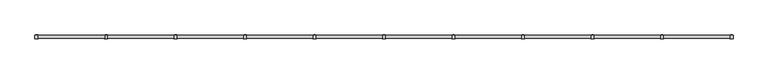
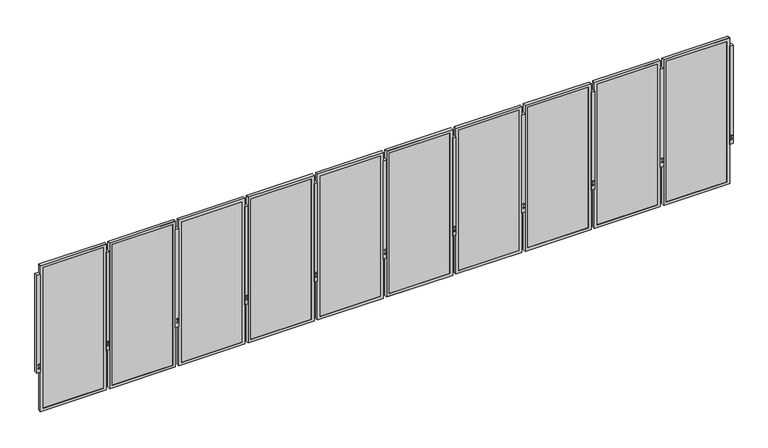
"""IFC4 building model written with IfcOpenShell, lengths in millimetres: railing geometry, Railing - Amico Architectural - Expanded Mesh Railing - Sunshade."""

from ifc_helpers import new_model, si_unit, frame, origin, place, context, project, spatial, polyline, outline, extrude, faceted_brep, source, transform, mapped, element, save


def railing_e50479f8(model_context):
    return source(origin(), model_context, "Body", "SolidModel", [
        extrude(outline(polyline([(-3118.5883502, -31340.2549816), (-3067.7883502, -31340.2549816), (-3067.7883502, -31391.0549816), (-3118.5883502, -31391.0549816), (-3118.5883502, -31340.2549816)])), frame((0.0, 0.0, -609.6), z_axis=(0.0, 0.0, 1.0), x_axis=(1.0, 0.0, 0.0)), (0.0, 0.0, 1.0), 1524.0),
        extrude(outline(polyline([(-530.1129981, -3103.6089204), (-542.3802561, -3100.3219185), (-545.667258, -3088.0546605), (-536.6870019, -3079.0744044), (-524.4197439, -3082.3614062), (-521.132742, -3094.6286642), (-530.1129981, -3103.6089204)])), frame((0.0, -31392.9016694, 0.0), z_axis=(0.0, 1.0, 0.0), x_axis=(0.0, 0.0, 1.0)), (0.0, 0.0, 1.0), 54.4933756),
        extrude(outline(polyline([(-479.3129981, -3103.6089204), (-491.5802561, -3100.3219185), (-494.867258, -3088.0546605), (-485.8870019, -3079.0744044), (-473.6197439, -3082.3614062), (-470.332742, -3094.6286642), (-479.3129981, -3103.6089204)])), frame((0.0, -31392.9016694, 0.0), z_axis=(0.0, 1.0, 0.0), x_axis=(0.0, 0.0, 1.0)), (0.0, 0.0, 1.0), 54.4933756),
        faceted_brep([(-4084.9928036, -31387.4481816, -1222.375), (-3116.6178036, -31387.4481816, -1222.375), (-3116.6178036, -31387.4481816, 1044.575), (-4084.9928036, -31387.4481816, 1044.575), (-4043.7178036, -31387.4481816, 1003.3), (-3157.8928036, -31387.4481816, 1003.3), (-3157.8928036, -31387.4481816, -1181.1), (-4043.7178036, -31387.4481816, -1181.1), (-4043.7178036, -31384.7049816, 1003.3), (-4043.7178036, -31384.7049816, -1181.1), (-4084.9928036, -31343.574885, 1044.575), (-4084.9928036, -31343.574885, -1222.375), (-4081.8178036, -31343.574885, 1041.4), (-4081.8178036, -31384.7049816, 1041.4), (-4081.8178036, -31384.7049816, -1219.2), (-4081.8178036, -31343.574885, -1219.2), (-3157.8928036, -31384.7049816, -1181.1), (-3116.6178036, -31343.574885, -1222.375), (-3119.7928036, -31384.7049816, -1219.2), (-3119.7928036, -31343.574885, -1219.2), (-3157.8928036, -31384.7049816, 1003.3), (-3116.6178036, -31343.574885, 1044.575), (-3119.7928036, -31384.7049816, 1041.4), (-3119.7928036, -31343.574885, 1041.4)], [[[0, 1, 2, 3], [4, 5, 6, 7]], [[8, 4, 7, 9]], [[3, 10, 11, 0]], [[12, 13, 14, 15]], [[9, 7, 6, 16]], [[0, 11, 17, 1]], [[15, 14, 18, 19]], [[16, 6, 5, 20]], [[1, 17, 21, 2]], [[19, 18, 22, 23]], [[20, 5, 4, 8]], [[10, 21, 17, 11], [15, 19, 23, 12]], [[2, 21, 10, 3]], [[13, 22, 18, 14], [9, 16, 20, 8]], [[23, 22, 13, 12]]]),
        extrude(outline(polyline([(-4081.8178036, -31375.1799816), (-3119.7928036, -31375.1799816), (-3119.7928036, -31384.7049816), (-4081.8178036, -31384.7049816), (-4081.8178036, -31375.1799816)])), frame((0.0, 0.0, -1219.2), z_axis=(0.0, 0.0, 1.0), x_axis=(1.0, 0.0, 0.0)), (0.0, 0.0, 1.0), 2260.6),
        extrude(outline(polyline([(-4136.1758502, -31340.2549816), (-4085.3758502, -31340.2549816), (-4085.3758502, -31391.0549816), (-4136.1758502, -31391.0549816), (-4136.1758502, -31340.2549816)])), frame((0.0, 0.0, -609.6), z_axis=(0.0, 0.0, 1.0), x_axis=(1.0, 0.0, 0.0)), (0.0, 0.0, 1.0), 1524.0),
        extrude(outline(polyline([(-530.1129981, -4121.1964204), (-542.3802561, -4117.9094185), (-545.667258, -4105.6421605), (-536.6870019, -4096.6619044), (-524.4197439, -4099.9489062), (-521.132742, -4112.2161642), (-530.1129981, -4121.1964204)])), frame((0.0, -31392.9016694, 0.0), z_axis=(0.0, 1.0, 0.0), x_axis=(0.0, 0.0, 1.0)), (0.0, 0.0, 1.0), 54.4933756),
        extrude(outline(polyline([(-479.3129981, -4121.1964204), (-491.5802561, -4117.9094185), (-494.867258, -4105.6421605), (-485.8870019, -4096.6619044), (-473.6197439, -4099.9489062), (-470.332742, -4112.2161642), (-479.3129981, -4121.1964204)])), frame((0.0, -31392.9016694, 0.0), z_axis=(0.0, 1.0, 0.0), x_axis=(0.0, 0.0, 1.0)), (0.0, 0.0, 1.0), 54.4933756),
        faceted_brep([(-5102.5803036, -31387.4481816, -1222.375), (-4134.2053036, -31387.4481816, -1222.375), (-4134.2053036, -31387.4481816, 1044.575), (-5102.5803036, -31387.4481816, 1044.575), (-5061.3053036, -31387.4481816, 1003.3), (-4175.4803036, -31387.4481816, 1003.3), (-4175.4803036, -31387.4481816, -1181.1), (-5061.3053036, -31387.4481816, -1181.1), (-5061.3053036, -31384.7049816, 1003.3), (-5061.3053036, -31384.7049816, -1181.1), (-5102.5803036, -31343.574885, 1044.575), (-5102.5803036, -31343.574885, -1222.375), (-5099.4053036, -31343.574885, 1041.4), (-5099.4053036, -31384.7049816, 1041.4), (-5099.4053036, -31384.7049816, -1219.2), (-5099.4053036, -31343.574885, -1219.2), (-4175.4803036, -31384.7049816, -1181.1), (-4134.2053036, -31343.574885, -1222.375), (-4137.3803036, -31384.7049816, -1219.2), (-4137.3803036, -31343.574885, -1219.2), (-4175.4803036, -31384.7049816, 1003.3), (-4134.2053036, -31343.574885, 1044.575), (-4137.3803036, -31384.7049816, 1041.4), (-4137.3803036, -31343.574885, 1041.4)], [[[0, 1, 2, 3], [4, 5, 6, 7]], [[8, 4, 7, 9]], [[3, 10, 11, 0]], [[12, 13, 14, 15]], [[9, 7, 6, 16]], [[0, 11, 17, 1]], [[15, 14, 18, 19]], [[16, 6, 5, 20]], [[1, 17, 21, 2]], [[19, 18, 22, 23]], [[20, 5, 4, 8]], [[10, 21, 17, 11], [15, 19, 23, 12]], [[2, 21, 10, 3]], [[13, 22, 18, 14], [9, 16, 20, 8]], [[23, 22, 13, 12]]]),
        extrude(outline(polyline([(-5099.4053036, -31375.1799816), (-4137.3803036, -31375.1799816), (-4137.3803036, -31384.7049816), (-5099.4053036, -31384.7049816), (-5099.4053036, -31375.1799816)])), frame((0.0, 0.0, -1219.2), z_axis=(0.0, 0.0, 1.0), x_axis=(1.0, 0.0, 0.0)), (0.0, 0.0, 1.0), 2260.6),
        extrude(outline(polyline([(-5153.7633502, -31340.2549816), (-5102.9633502, -31340.2549816), (-5102.9633502, -31391.0549816), (-5153.7633502, -31391.0549816), (-5153.7633502, -31340.2549816)])), frame((0.0, 0.0, -609.6), z_axis=(0.0, 0.0, 1.0), x_axis=(1.0, 0.0, 0.0)), (0.0, 0.0, 1.0), 1524.0),
        extrude(outline(polyline([(-530.1129981, -5138.7839204), (-542.3802561, -5135.4969185), (-545.667258, -5123.2296605), (-536.6870019, -5114.2494044), (-524.4197439, -5117.5364062), (-521.132742, -5129.8036642), (-530.1129981, -5138.7839204)])), frame((0.0, -31392.9016694, 0.0), z_axis=(0.0, 1.0, 0.0), x_axis=(0.0, 0.0, 1.0)), (0.0, 0.0, 1.0), 54.4933756),
        extrude(outline(polyline([(-479.3129981, -5138.7839204), (-491.5802561, -5135.4969185), (-494.867258, -5123.2296605), (-485.8870019, -5114.2494044), (-473.6197439, -5117.5364062), (-470.332742, -5129.8036642), (-479.3129981, -5138.7839204)])), frame((0.0, -31392.9016694, 0.0), z_axis=(0.0, 1.0, 0.0), x_axis=(0.0, 0.0, 1.0)), (0.0, 0.0, 1.0), 54.4933756),
        faceted_brep([(-6120.1678036, -31387.4481816, -1222.375), (-5151.7928036, -31387.4481816, -1222.375), (-5151.7928036, -31387.4481816, 1044.575), (-6120.1678036, -31387.4481816, 1044.575), (-6078.8928036, -31387.4481816, 1003.3), (-5193.0678036, -31387.4481816, 1003.3), (-5193.0678036, -31387.4481816, -1181.1), (-6078.8928036, -31387.4481816, -1181.1), (-6078.8928036, -31384.7049816, 1003.3), (-6078.8928036, -31384.7049816, -1181.1), (-6120.1678036, -31343.574885, 1044.575), (-6120.1678036, -31343.574885, -1222.375), (-6116.9928036, -31343.574885, 1041.4), (-6116.9928036, -31384.7049816, 1041.4), (-6116.9928036, -31384.7049816, -1219.2), (-6116.9928036, -31343.574885, -1219.2), (-5193.0678036, -31384.7049816, -1181.1), (-5151.7928036, -31343.574885, -1222.375), (-5154.9678036, -31384.7049816, -1219.2), (-5154.9678036, -31343.574885, -1219.2), (-5193.0678036, -31384.7049816, 1003.3), (-5151.7928036, -31343.574885, 1044.575), (-5154.9678036, -31384.7049816, 1041.4), (-5154.9678036, -31343.574885, 1041.4)], [[[0, 1, 2, 3], [4, 5, 6, 7]], [[8, 4, 7, 9]], [[3, 10, 11, 0]], [[12, 13, 14, 15]], [[9, 7, 6, 16]], [[0, 11, 17, 1]], [[15, 14, 18, 19]], [[16, 6, 5, 20]], [[1, 17, 21, 2]], [[19, 18, 22, 23]], [[20, 5, 4, 8]], [[10, 21, 17, 11], [15, 19, 23, 12]], [[2, 21, 10, 3]], [[13, 22, 18, 14], [9, 16, 20, 8]], [[23, 22, 13, 12]]]),
        extrude(outline(polyline([(-6116.9928036, -31375.1799816), (-5154.9678036, -31375.1799816), (-5154.9678036, -31384.7049816), (-6116.9928036, -31384.7049816), (-6116.9928036, -31375.1799816)])), frame((0.0, 0.0, -1219.2), z_axis=(0.0, 0.0, 1.0), x_axis=(1.0, 0.0, 0.0)), (0.0, 0.0, 1.0), 2260.6),
        extrude(outline(polyline([(-6171.3508502, -31340.2549816), (-6120.5508502, -31340.2549816), (-6120.5508502, -31391.0549816), (-6171.3508502, -31391.0549816), (-6171.3508502, -31340.2549816)])), frame((0.0, 0.0, -609.6), z_axis=(0.0, 0.0, 1.0), x_axis=(1.0, 0.0, 0.0)), (0.0, 0.0, 1.0), 1524.0),
        extrude(outline(polyline([(-530.1129981, -6156.3714204), (-542.3802561, -6153.0844185), (-545.667258, -6140.8171605), (-536.6870019, -6131.8369044), (-524.4197439, -6135.1239062), (-521.132742, -6147.3911642), (-530.1129981, -6156.3714204)])), frame((0.0, -31392.9016694, 0.0), z_axis=(0.0, 1.0, 0.0), x_axis=(0.0, 0.0, 1.0)), (0.0, 0.0, 1.0), 54.4933756),
        extrude(outline(polyline([(-479.3129981, -6156.3714204), (-491.5802561, -6153.0844185), (-494.867258, -6140.8171605), (-485.8870019, -6131.8369044), (-473.6197439, -6135.1239062), (-470.332742, -6147.3911642), (-479.3129981, -6156.3714204)])), frame((0.0, -31392.9016694, 0.0), z_axis=(0.0, 1.0, 0.0), x_axis=(0.0, 0.0, 1.0)), (0.0, 0.0, 1.0), 54.4933756),
        faceted_brep([(-7137.7553036, -31387.4481816, -1222.375), (-6169.3803036, -31387.4481816, -1222.375), (-6169.3803036, -31387.4481816, 1044.575), (-7137.7553036, -31387.4481816, 1044.575), (-7096.4803036, -31387.4481816, 1003.3), (-6210.6553036, -31387.4481816, 1003.3), (-6210.6553036, -31387.4481816, -1181.1), (-7096.4803036, -31387.4481816, -1181.1), (-7096.4803036, -31384.7049816, 1003.3), (-7096.4803036, -31384.7049816, -1181.1), (-7137.7553036, -31343.574885, 1044.575), (-7137.7553036, -31343.574885, -1222.375), (-7134.5803036, -31343.574885, 1041.4), (-7134.5803036, -31384.7049816, 1041.4), (-7134.5803036, -31384.7049816, -1219.2), (-7134.5803036, -31343.574885, -1219.2), (-6210.6553036, -31384.7049816, -1181.1), (-6169.3803036, -31343.574885, -1222.375), (-6172.5553036, -31384.7049816, -1219.2), (-6172.5553036, -31343.574885, -1219.2), (-6210.6553036, -31384.7049816, 1003.3), (-6169.3803036, -31343.574885, 1044.575), (-6172.5553036, -31384.7049816, 1041.4), (-6172.5553036, -31343.574885, 1041.4)], [[[0, 1, 2, 3], [4, 5, 6, 7]], [[8, 4, 7, 9]], [[3, 10, 11, 0]], [[12, 13, 14, 15]], [[9, 7, 6, 16]], [[0, 11, 17, 1]], [[15, 14, 18, 19]], [[16, 6, 5, 20]], [[1, 17, 21, 2]], [[19, 18, 22, 23]], [[20, 5, 4, 8]], [[10, 21, 17, 11], [15, 19, 23, 12]], [[2, 21, 10, 3]], [[13, 22, 18, 14], [9, 16, 20, 8]], [[23, 22, 13, 12]]]),
        extrude(outline(polyline([(-7134.5803036, -31375.1799816), (-6172.5553036, -31375.1799816), (-6172.5553036, -31384.7049816), (-7134.5803036, -31384.7049816), (-7134.5803036, -31375.1799816)])), frame((0.0, 0.0, -1219.2), z_axis=(0.0, 0.0, 1.0), x_axis=(1.0, 0.0, 0.0)), (0.0, 0.0, 1.0), 2260.6),
        extrude(outline(polyline([(-7188.9383502, -31340.2549816), (-7138.1383502, -31340.2549816), (-7138.1383502, -31391.0549816), (-7188.9383502, -31391.0549816), (-7188.9383502, -31340.2549816)])), frame((0.0, 0.0, -609.6), z_axis=(0.0, 0.0, 1.0), x_axis=(1.0, 0.0, 0.0)), (0.0, 0.0, 1.0), 1524.0),
        extrude(outline(polyline([(-530.1129981, -7173.9589204), (-542.3802561, -7170.6719185), (-545.667258, -7158.4046605), (-536.6870019, -7149.4244044), (-524.4197439, -7152.7114062), (-521.132742, -7164.9786642), (-530.1129981, -7173.9589204)])), frame((0.0, -31392.9016694, 0.0), z_axis=(0.0, 1.0, 0.0), x_axis=(0.0, 0.0, 1.0)), (0.0, 0.0, 1.0), 54.4933756),
        extrude(outline(polyline([(-479.3129981, -7173.9589204), (-491.5802561, -7170.6719185), (-494.867258, -7158.4046605), (-485.8870019, -7149.4244044), (-473.6197439, -7152.7114062), (-470.332742, -7164.9786642), (-479.3129981, -7173.9589204)])), frame((0.0, -31392.9016694, 0.0), z_axis=(0.0, 1.0, 0.0), x_axis=(0.0, 0.0, 1.0)), (0.0, 0.0, 1.0), 54.4933756),
        faceted_brep([(-8155.3428036, -31387.4481816, -1222.375), (-7186.9678036, -31387.4481816, -1222.375), (-7186.9678036, -31387.4481816, 1044.575), (-8155.3428036, -31387.4481816, 1044.575), (-8114.0678036, -31387.4481816, 1003.3), (-7228.2428036, -31387.4481816, 1003.3), (-7228.2428036, -31387.4481816, -1181.1), (-8114.0678036, -31387.4481816, -1181.1), (-8114.0678036, -31384.7049816, 1003.3), (-8114.0678036, -31384.7049816, -1181.1), (-8155.3428036, -31343.574885, 1044.575), (-8155.3428036, -31343.574885, -1222.375), (-8152.1678036, -31343.574885, 1041.4), (-8152.1678036, -31384.7049816, 1041.4), (-8152.1678036, -31384.7049816, -1219.2), (-8152.1678036, -31343.574885, -1219.2), (-7228.2428036, -31384.7049816, -1181.1), (-7186.9678036, -31343.574885, -1222.375), (-7190.1428036, -31384.7049816, -1219.2), (-7190.1428036, -31343.574885, -1219.2), (-7228.2428036, -31384.7049816, 1003.3), (-7186.9678036, -31343.574885, 1044.575), (-7190.1428036, -31384.7049816, 1041.4), (-7190.1428036, -31343.574885, 1041.4)], [[[0, 1, 2, 3], [4, 5, 6, 7]], [[8, 4, 7, 9]], [[3, 10, 11, 0]], [[12, 13, 14, 15]], [[9, 7, 6, 16]], [[0, 11, 17, 1]], [[15, 14, 18, 19]], [[16, 6, 5, 20]], [[1, 17, 21, 2]], [[19, 18, 22, 23]], [[20, 5, 4, 8]], [[10, 21, 17, 11], [15, 19, 23, 12]], [[2, 21, 10, 3]], [[13, 22, 18, 14], [9, 16, 20, 8]], [[23, 22, 13, 12]]]),
        extrude(outline(polyline([(-8152.1678036, -31375.1799816), (-7190.1428036, -31375.1799816), (-7190.1428036, -31384.7049816), (-8152.1678036, -31384.7049816), (-8152.1678036, -31375.1799816)])), frame((0.0, 0.0, -1219.2), z_axis=(0.0, 0.0, 1.0), x_axis=(1.0, 0.0, 0.0)), (0.0, 0.0, 1.0), 2260.6),
        extrude(outline(polyline([(-8206.5258502, -31340.2549816), (-8155.7258502, -31340.2549816), (-8155.7258502, -31391.0549816), (-8206.5258502, -31391.0549816), (-8206.5258502, -31340.2549816)])), frame((0.0, 0.0, -609.6), z_axis=(0.0, 0.0, 1.0), x_axis=(1.0, 0.0, 0.0)), (0.0, 0.0, 1.0), 1524.0),
        extrude(outline(polyline([(-530.1129981, -8191.5464204), (-542.3802561, -8188.2594185), (-545.667258, -8175.9921605), (-536.6870019, -8167.0119044), (-524.4197439, -8170.2989062), (-521.132742, -8182.5661642), (-530.1129981, -8191.5464204)])), frame((0.0, -31392.9016694, 0.0), z_axis=(0.0, 1.0, 0.0), x_axis=(0.0, 0.0, 1.0)), (0.0, 0.0, 1.0), 54.4933756),
        extrude(outline(polyline([(-479.3129981, -8191.5464204), (-491.5802561, -8188.2594185), (-494.867258, -8175.9921605), (-485.8870019, -8167.0119044), (-473.6197439, -8170.2989062), (-470.332742, -8182.5661642), (-479.3129981, -8191.5464204)])), frame((0.0, -31392.9016694, 0.0), z_axis=(0.0, 1.0, 0.0), x_axis=(0.0, 0.0, 1.0)), (0.0, 0.0, 1.0), 54.4933756),
        faceted_brep([(-9172.9303036, -31387.4481816, -1222.375), (-8204.5553036, -31387.4481816, -1222.375), (-8204.5553036, -31387.4481816, 1044.575), (-9172.9303036, -31387.4481816, 1044.575), (-9131.6553036, -31387.4481816, 1003.3), (-8245.8303036, -31387.4481816, 1003.3), (-8245.8303036, -31387.4481816, -1181.1), (-9131.6553036, -31387.4481816, -1181.1), (-9131.6553036, -31384.7049816, 1003.3), (-9131.6553036, -31384.7049816, -1181.1), (-9172.9303036, -31343.574885, 1044.575), (-9172.9303036, -31343.574885, -1222.375), (-9169.7553036, -31343.574885, 1041.4), (-9169.7553036, -31384.7049816, 1041.4), (-9169.7553036, -31384.7049816, -1219.2), (-9169.7553036, -31343.574885, -1219.2), (-8245.8303036, -31384.7049816, -1181.1), (-8204.5553036, -31343.574885, -1222.375), (-8207.7303036, -31384.7049816, -1219.2), (-8207.7303036, -31343.574885, -1219.2), (-8245.8303036, -31384.7049816, 1003.3), (-8204.5553036, -31343.574885, 1044.575), (-8207.7303036, -31384.7049816, 1041.4), (-8207.7303036, -31343.574885, 1041.4)], [[[0, 1, 2, 3], [4, 5, 6, 7]], [[8, 4, 7, 9]], [[3, 10, 11, 0]], [[12, 13, 14, 15]], [[9, 7, 6, 16]], [[0, 11, 17, 1]], [[15, 14, 18, 19]], [[16, 6, 5, 20]], [[1, 17, 21, 2]], [[19, 18, 22, 23]], [[20, 5, 4, 8]], [[10, 21, 17, 11], [15, 19, 23, 12]], [[2, 21, 10, 3]], [[13, 22, 18, 14], [9, 16, 20, 8]], [[23, 22, 13, 12]]]),
        extrude(outline(polyline([(-9169.7553036, -31375.1799816), (-8207.7303036, -31375.1799816), (-8207.7303036, -31384.7049816), (-9169.7553036, -31384.7049816), (-9169.7553036, -31375.1799816)])), frame((0.0, 0.0, -1219.2), z_axis=(0.0, 0.0, 1.0), x_axis=(1.0, 0.0, 0.0)), (0.0, 0.0, 1.0), 2260.6),
        extrude(outline(polyline([(-9224.1133502, -31340.2549816), (-9173.3133502, -31340.2549816), (-9173.3133502, -31391.0549816), (-9224.1133502, -31391.0549816), (-9224.1133502, -31340.2549816)])), frame((0.0, 0.0, -609.6), z_axis=(0.0, 0.0, 1.0), x_axis=(1.0, 0.0, 0.0)), (0.0, 0.0, 1.0), 1524.0),
        extrude(outline(polyline([(-530.1129981, -9209.1339204), (-542.3802561, -9205.8469185), (-545.667258, -9193.5796605), (-536.6870019, -9184.5994044), (-524.4197439, -9187.8864062), (-521.132742, -9200.1536642), (-530.1129981, -9209.1339204)])), frame((0.0, -31392.9016694, 0.0), z_axis=(0.0, 1.0, 0.0), x_axis=(0.0, 0.0, 1.0)), (0.0, 0.0, 1.0), 54.4933756),
        extrude(outline(polyline([(-479.3129981, -9209.1339204), (-491.5802561, -9205.8469185), (-494.867258, -9193.5796605), (-485.8870019, -9184.5994044), (-473.6197439, -9187.8864062), (-470.332742, -9200.1536642), (-479.3129981, -9209.1339204)])), frame((0.0, -31392.9016694, 0.0), z_axis=(0.0, 1.0, 0.0), x_axis=(0.0, 0.0, 1.0)), (0.0, 0.0, 1.0), 54.4933756),
        faceted_brep([(-10190.5178036, -31387.4481816, -1222.375), (-9222.1428036, -31387.4481816, -1222.375), (-9222.1428036, -31387.4481816, 1044.575), (-10190.5178036, -31387.4481816, 1044.575), (-10149.2428036, -31387.4481816, 1003.3), (-9263.4178036, -31387.4481816, 1003.3), (-9263.4178036, -31387.4481816, -1181.1), (-10149.2428036, -31387.4481816, -1181.1), (-10149.2428036, -31384.7049816, 1003.3), (-10149.2428036, -31384.7049816, -1181.1), (-10190.5178036, -31343.574885, 1044.575), (-10190.5178036, -31343.574885, -1222.375), (-10187.3428036, -31343.574885, 1041.4), (-10187.3428036, -31384.7049816, 1041.4), (-10187.3428036, -31384.7049816, -1219.2), (-10187.3428036, -31343.574885, -1219.2), (-9263.4178036, -31384.7049816, -1181.1), (-9222.1428036, -31343.574885, -1222.375), (-9225.3178036, -31384.7049816, -1219.2), (-9225.3178036, -31343.574885, -1219.2), (-9263.4178036, -31384.7049816, 1003.3), (-9222.1428036, -31343.574885, 1044.575), (-9225.3178036, -31384.7049816, 1041.4), (-9225.3178036, -31343.574885, 1041.4)], [[[0, 1, 2, 3], [4, 5, 6, 7]], [[8, 4, 7, 9]], [[3, 10, 11, 0]], [[12, 13, 14, 15]], [[9, 7, 6, 16]], [[0, 11, 17, 1]], [[15, 14, 18, 19]], [[16, 6, 5, 20]], [[1, 17, 21, 2]], [[19, 18, 22, 23]], [[20, 5, 4, 8]], [[10, 21, 17, 11], [15, 19, 23, 12]], [[2, 21, 10, 3]], [[13, 22, 18, 14], [9, 16, 20, 8]], [[23, 22, 13, 12]]]),
        extrude(outline(polyline([(-10187.3428036, -31375.1799816), (-9225.3178036, -31375.1799816), (-9225.3178036, -31384.7049816), (-10187.3428036, -31384.7049816), (-10187.3428036, -31375.1799816)])), frame((0.0, 0.0, -1219.2), z_axis=(0.0, 0.0, 1.0), x_axis=(1.0, 0.0, 0.0)), (0.0, 0.0, 1.0), 2260.6),
        extrude(outline(polyline([(-10241.7008502, -31340.2549816), (-10190.9008502, -31340.2549816), (-10190.9008502, -31391.0549816), (-10241.7008502, -31391.0549816), (-10241.7008502, -31340.2549816)])), frame((0.0, 0.0, -609.6), z_axis=(0.0, 0.0, 1.0), x_axis=(1.0, 0.0, 0.0)), (0.0, 0.0, 1.0), 1524.0),
        extrude(outline(polyline([(-530.1129981, -10226.7214204), (-542.3802561, -10223.4344185), (-545.667258, -10211.1671605), (-536.6870019, -10202.1869044), (-524.4197439, -10205.4739062), (-521.132742, -10217.7411642), (-530.1129981, -10226.7214204)])), frame((0.0, -31392.9016694, 0.0), z_axis=(0.0, 1.0, 0.0), x_axis=(0.0, 0.0, 1.0)), (0.0, 0.0, 1.0), 54.4933756),
        extrude(outline(polyline([(-479.3129981, -10226.7214204), (-491.5802561, -10223.4344185), (-494.867258, -10211.1671605), (-485.8870019, -10202.1869044), (-473.6197439, -10205.4739062), (-470.332742, -10217.7411642), (-479.3129981, -10226.7214204)])), frame((0.0, -31392.9016694, 0.0), z_axis=(0.0, 1.0, 0.0), x_axis=(0.0, 0.0, 1.0)), (0.0, 0.0, 1.0), 54.4933756),
        faceted_brep([(-11208.1053036, -31387.4481816, -1222.375), (-10239.7303036, -31387.4481816, -1222.375), (-10239.7303036, -31387.4481816, 1044.575), (-11208.1053036, -31387.4481816, 1044.575), (-11166.8303036, -31387.4481816, 1003.3), (-10281.0053036, -31387.4481816, 1003.3), (-10281.0053036, -31387.4481816, -1181.1), (-11166.8303036, -31387.4481816, -1181.1), (-11166.8303036, -31384.7049816, 1003.3), (-11166.8303036, -31384.7049816, -1181.1), (-11208.1053036, -31343.574885, 1044.575), (-11208.1053036, -31343.574885, -1222.375), (-11204.9303036, -31343.574885, 1041.4), (-11204.9303036, -31384.7049816, 1041.4), (-11204.9303036, -31384.7049816, -1219.2), (-11204.9303036, -31343.574885, -1219.2), (-10281.0053036, -31384.7049816, -1181.1), (-10239.7303036, -31343.574885, -1222.375), (-10242.9053036, -31384.7049816, -1219.2), (-10242.9053036, -31343.574885, -1219.2), (-10281.0053036, -31384.7049816, 1003.3), (-10239.7303036, -31343.574885, 1044.575), (-10242.9053036, -31384.7049816, 1041.4), (-10242.9053036, -31343.574885, 1041.4)], [[[0, 1, 2, 3], [4, 5, 6, 7]], [[8, 4, 7, 9]], [[3, 10, 11, 0]], [[12, 13, 14, 15]], [[9, 7, 6, 16]], [[0, 11, 17, 1]], [[15, 14, 18, 19]], [[16, 6, 5, 20]], [[1, 17, 21, 2]], [[19, 18, 22, 23]], [[20, 5, 4, 8]], [[10, 21, 17, 11], [15, 19, 23, 12]], [[2, 21, 10, 3]], [[13, 22, 18, 14], [9, 16, 20, 8]], [[23, 22, 13, 12]]]),
        extrude(outline(polyline([(-11204.9303036, -31375.1799816), (-10242.9053036, -31375.1799816), (-10242.9053036, -31384.7049816), (-11204.9303036, -31384.7049816), (-11204.9303036, -31375.1799816)])), frame((0.0, 0.0, -1219.2), z_axis=(0.0, 0.0, 1.0), x_axis=(1.0, 0.0, 0.0)), (0.0, 0.0, 1.0), 2260.6),
        extrude(outline(polyline([(-11259.2883502, -31340.2549816), (-11208.4883502, -31340.2549816), (-11208.4883502, -31391.0549816), (-11259.2883502, -31391.0549816), (-11259.2883502, -31340.2549816)])), frame((0.0, 0.0, -609.6), z_axis=(0.0, 0.0, 1.0), x_axis=(1.0, 0.0, 0.0)), (0.0, 0.0, 1.0), 1524.0),
        extrude(outline(polyline([(-530.1129981, -11244.3089204), (-542.3802561, -11241.0219185), (-545.667258, -11228.7546605), (-536.6870019, -11219.7744044), (-524.4197439, -11223.0614062), (-521.132742, -11235.3286642), (-530.1129981, -11244.3089204)])), frame((0.0, -31392.9016694, 0.0), z_axis=(0.0, 1.0, 0.0), x_axis=(0.0, 0.0, 1.0)), (0.0, 0.0, 1.0), 54.4933756),
        extrude(outline(polyline([(-479.3129981, -11244.3089204), (-491.5802561, -11241.0219185), (-494.867258, -11228.7546605), (-485.8870019, -11219.7744044), (-473.6197439, -11223.0614062), (-470.332742, -11235.3286642), (-479.3129981, -11244.3089204)])), frame((0.0, -31392.9016694, 0.0), z_axis=(0.0, 1.0, 0.0), x_axis=(0.0, 0.0, 1.0)), (0.0, 0.0, 1.0), 54.4933756),
        faceted_brep([(-12225.6928036, -31387.4481816, -1222.375), (-11257.3178036, -31387.4481816, -1222.375), (-11257.3178036, -31387.4481816, 1044.575), (-12225.6928036, -31387.4481816, 1044.575), (-12184.4178036, -31387.4481816, 1003.3), (-11298.5928036, -31387.4481816, 1003.3), (-11298.5928036, -31387.4481816, -1181.1), (-12184.4178036, -31387.4481816, -1181.1), (-12184.4178036, -31384.7049816, 1003.3), (-12184.4178036, -31384.7049816, -1181.1), (-12225.6928036, -31343.574885, 1044.575), (-12225.6928036, -31343.574885, -1222.375), (-12222.5178036, -31343.574885, 1041.4), (-12222.5178036, -31384.7049816, 1041.4), (-12222.5178036, -31384.7049816, -1219.2), (-12222.5178036, -31343.574885, -1219.2), (-11298.5928036, -31384.7049816, -1181.1), (-11257.3178036, -31343.574885, -1222.375), (-11260.4928036, -31384.7049816, -1219.2), (-11260.4928036, -31343.574885, -1219.2), (-11298.5928036, -31384.7049816, 1003.3), (-11257.3178036, -31343.574885, 1044.575), (-11260.4928036, -31384.7049816, 1041.4), (-11260.4928036, -31343.574885, 1041.4)], [[[0, 1, 2, 3], [4, 5, 6, 7]], [[8, 4, 7, 9]], [[3, 10, 11, 0]], [[12, 13, 14, 15]], [[9, 7, 6, 16]], [[0, 11, 17, 1]], [[15, 14, 18, 19]], [[16, 6, 5, 20]], [[1, 17, 21, 2]], [[19, 18, 22, 23]], [[20, 5, 4, 8]], [[10, 21, 17, 11], [15, 19, 23, 12]], [[2, 21, 10, 3]], [[13, 22, 18, 14], [9, 16, 20, 8]], [[23, 22, 13, 12]]]),
        extrude(outline(polyline([(-12222.5178036, -31375.1799816), (-11260.4928036, -31375.1799816), (-11260.4928036, -31384.7049816), (-12222.5178036, -31384.7049816), (-12222.5178036, -31375.1799816)])), frame((0.0, 0.0, -1219.2), z_axis=(0.0, 0.0, 1.0), x_axis=(1.0, 0.0, 0.0)), (0.0, 0.0, 1.0), 2260.6),
        extrude(outline(polyline([(-12276.8758502, -31340.2549816), (-12226.0758502, -31340.2549816), (-12226.0758502, -31391.0549816), (-12276.8758502, -31391.0549816), (-12276.8758502, -31340.2549816)])), frame((0.0, 0.0, -609.6), z_axis=(0.0, 0.0, 1.0), x_axis=(1.0, 0.0, 0.0)), (0.0, 0.0, 1.0), 1524.0),
        extrude(outline(polyline([(-530.1129981, -12261.8964204), (-542.3802561, -12258.6094185), (-545.667258, -12246.3421605), (-536.6870019, -12237.3619044), (-524.4197439, -12240.6489062), (-521.132742, -12252.9161642), (-530.1129981, -12261.8964204)])), frame((0.0, -31392.9016694, 0.0), z_axis=(0.0, 1.0, 0.0), x_axis=(0.0, 0.0, 1.0)), (0.0, 0.0, 1.0), 54.4933756),
        extrude(outline(polyline([(-479.3129981, -12261.8964204), (-491.5802561, -12258.6094185), (-494.867258, -12246.3421605), (-485.8870019, -12237.3619044), (-473.6197439, -12240.6489062), (-470.332742, -12252.9161642), (-479.3129981, -12261.8964204)])), frame((0.0, -31392.9016694, 0.0), z_axis=(0.0, 1.0, 0.0), x_axis=(0.0, 0.0, 1.0)), (0.0, 0.0, 1.0), 54.4933756),
        faceted_brep([(-13243.2803036, -31387.4481816, -1222.375), (-12274.9053036, -31387.4481816, -1222.375), (-12274.9053036, -31387.4481816, 1044.575), (-13243.2803036, -31387.4481816, 1044.575), (-13202.0053036, -31387.4481816, 1003.3), (-12316.1803036, -31387.4481816, 1003.3), (-12316.1803036, -31387.4481816, -1181.1), (-13202.0053036, -31387.4481816, -1181.1), (-13202.0053036, -31384.7049816, 1003.3), (-13202.0053036, -31384.7049816, -1181.1), (-13243.2803036, -31343.574885, 1044.575), (-13243.2803036, -31343.574885, -1222.375), (-13240.1053036, -31343.574885, 1041.4), (-13240.1053036, -31384.7049816, 1041.4), (-13240.1053036, -31384.7049816, -1219.2), (-13240.1053036, -31343.574885, -1219.2), (-12316.1803036, -31384.7049816, -1181.1), (-12274.9053036, -31343.574885, -1222.375), (-12278.0803036, -31384.7049816, -1219.2), (-12278.0803036, -31343.574885, -1219.2), (-12316.1803036, -31384.7049816, 1003.3), (-12274.9053036, -31343.574885, 1044.575), (-12278.0803036, -31384.7049816, 1041.4), (-12278.0803036, -31343.574885, 1041.4)], [[[0, 1, 2, 3], [4, 5, 6, 7]], [[8, 4, 7, 9]], [[3, 10, 11, 0]], [[12, 13, 14, 15]], [[9, 7, 6, 16]], [[0, 11, 17, 1]], [[15, 14, 18, 19]], [[16, 6, 5, 20]], [[1, 17, 21, 2]], [[19, 18, 22, 23]], [[20, 5, 4, 8]], [[10, 21, 17, 11], [15, 19, 23, 12]], [[2, 21, 10, 3]], [[13, 22, 18, 14], [9, 16, 20, 8]], [[23, 22, 13, 12]]]),
        extrude(outline(polyline([(-13240.1053036, -31375.1799816), (-12278.0803036, -31375.1799816), (-12278.0803036, -31384.7049816), (-13240.1053036, -31384.7049816), (-13240.1053036, -31375.1799816)])), frame((0.0, 0.0, -1219.2), z_axis=(0.0, 0.0, 1.0), x_axis=(1.0, 0.0, 0.0)), (0.0, 0.0, 1.0), 2260.6),
        extrude(outline(polyline([(-13294.4633502, -31340.2549816), (-13243.6633502, -31340.2549816), (-13243.6633502, -31391.0549816), (-13294.4633502, -31391.0549816), (-13294.4633502, -31340.2549816)])), frame((0.0, 0.0, -609.6), z_axis=(0.0, 0.0, 1.0), x_axis=(1.0, 0.0, 0.0)), (0.0, 0.0, 1.0), 1524.0),
        extrude(outline(polyline([(-530.1129981, -13279.4839204), (-542.3802561, -13276.1969185), (-545.667258, -13263.9296605), (-536.6870019, -13254.9494044), (-524.4197439, -13258.2364062), (-521.132742, -13270.5036642), (-530.1129981, -13279.4839204)])), frame((0.0, -31392.9016694, 0.0), z_axis=(0.0, 1.0, 0.0), x_axis=(0.0, 0.0, 1.0)), (0.0, 0.0, 1.0), 54.4933756),
        extrude(outline(polyline([(-479.3129981, -13279.4839204), (-491.5802561, -13276.1969185), (-494.867258, -13263.9296605), (-485.8870019, -13254.9494044), (-473.6197439, -13258.2364062), (-470.332742, -13270.5036642), (-479.3129981, -13279.4839204)])), frame((0.0, -31392.9016694, 0.0), z_axis=(0.0, 1.0, 0.0), x_axis=(0.0, 0.0, 1.0)), (0.0, 0.0, 1.0), 54.4933756),
    ])


if __name__ == "__main__":
    model = new_model("IFC4")
    model_context = context("Model", 3, world=origin())
    ifc_project = project(units=[si_unit("LENGTHUNIT", "METRE", prefix="MILLI")], contexts=[model_context])
    site = spatial("IfcSite", under=ifc_project)
    building = spatial("IfcBuilding", under=site)
    placement = place(None, origin())
    railing_shape = railing_e50479f8(model_context)
    element("IfcRailing", 1, ObjectType="Railing - Amico Architectural - Expanded Mesh Railing - Sunshade", at=placement, inside=building, context=model_context, shape_type="MappedRepresentation", body=[
        mapped(railing_shape, transform((0.0, 0.0, 0.0), x_axis=(1.0, 0.0, 0.0), y_axis=(0.0, 1.0, 0.0), z_axis=(0.0, 0.0, 1.0))),
    ])
    save(model, "model.ifc")
